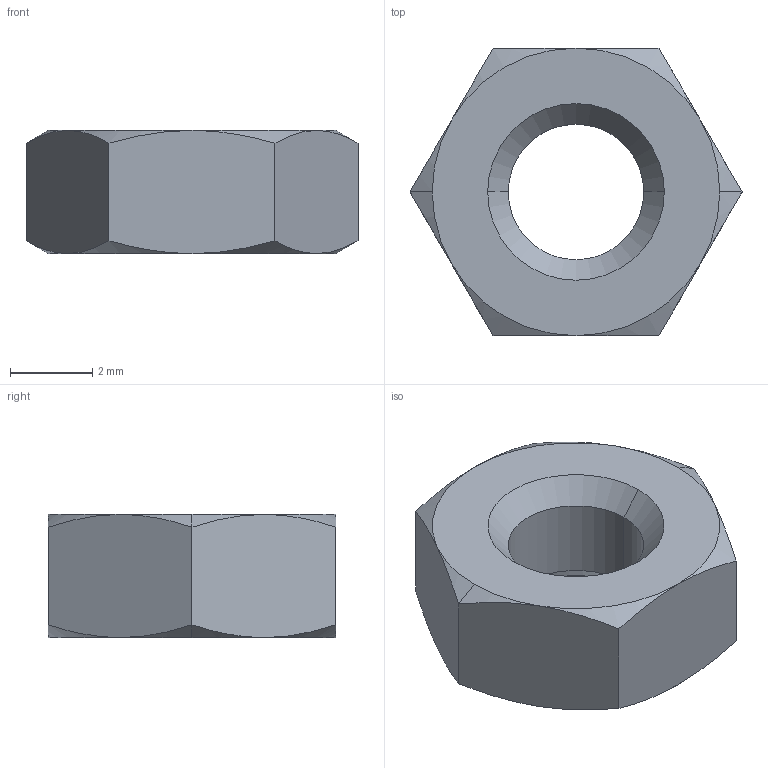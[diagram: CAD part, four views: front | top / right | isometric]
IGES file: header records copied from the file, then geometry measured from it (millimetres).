
Global section: file name: No Iges File Name specified; native system: AutoDesk Inventor R6.0; preprocessor: AutoDesk Inventor Iges Exporter R6.0; author: No Author specified; organization: No Organization specified; date: 20030408.082714; units: millimetre
Bounding box: 8.08 x 7 x 3 mm (x, y, z)
Volume: 97.8 mm3; surface area: 162.1 mm2
Topology: 1 solids, 1 shells, 30 faces, 64 edges, 36 vertices
Faces by surface type: cone 16, plane 8, bspline 4, revolution 2
